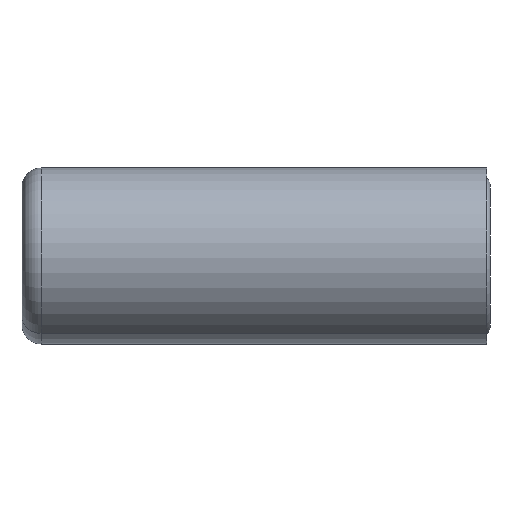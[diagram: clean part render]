
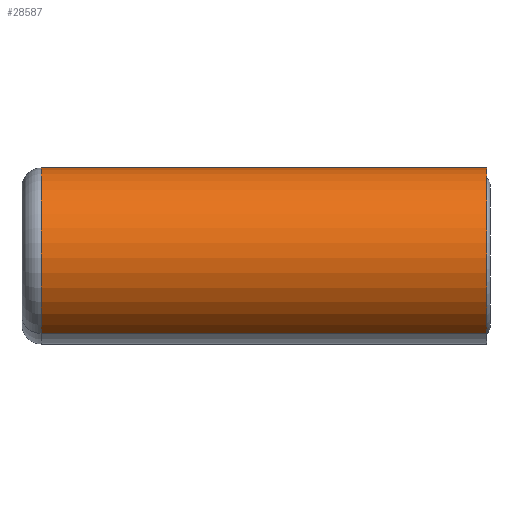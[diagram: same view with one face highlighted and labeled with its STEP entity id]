
A CAD part, left-side view. The second image highlights one B-rep face of the part: STEP entity #28587.
In plain terms, the highlighted cylindrical face has radius 9.25 mm (diameter 18.5 mm), a partial arc.
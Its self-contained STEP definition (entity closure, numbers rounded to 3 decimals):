
#56 = CARTESIAN_POINT ( 'NONE',  ( 0., 48.795, 0. ) ) ;
#889 = ORIENTED_EDGE ( 'NONE', *, *, #20856, .F. ) ;
#2518 = DIRECTION ( 'NONE',  ( 0., -1., 0. ) ) ;
#3113 = VECTOR ( 'NONE', #2518, 1000. ) ;
#3909 = DIRECTION ( 'NONE',  ( 0., 0., 1. ) ) ;
#3922 = VECTOR ( 'NONE', #32006, 1000. ) ;
#4190 = EDGE_CURVE ( 'NONE', #34112, #18105, #32348, .T. ) ;
#5203 = CARTESIAN_POINT ( 'NONE',  ( 0., 48.795, 9.25 ) ) ;
#5781 = DIRECTION ( 'NONE',  ( 0., -1., 0. ) ) ;
#6177 = CARTESIAN_POINT ( 'NONE',  ( 0., 0., 9.25 ) ) ;
#6730 = CARTESIAN_POINT ( 'NONE',  ( 0., 0., -9.25 ) ) ;
#7040 = CARTESIAN_POINT ( 'NONE',  ( 0., 46.795, 9.25 ) ) ;
#7108 = CARTESIAN_POINT ( 'NONE',  ( 0., 46.795, 0. ) ) ;
#7938 = DIRECTION ( 'NONE',  ( 0., 1., 0. ) ) ;
#9377 = VERTEX_POINT ( 'NONE', #33082 ) ;
#10211 = CARTESIAN_POINT ( 'NONE',  ( 0., 48.795, -9.25 ) ) ;
#10457 = CIRCLE ( 'NONE', #15570, 9.25 ) ;
#10617 = FACE_OUTER_BOUND ( 'NONE', #24373, .T. ) ;
#10814 = CARTESIAN_POINT ( 'NONE',  ( 0., 0., 0. ) ) ;
#11756 = ORIENTED_EDGE ( 'NONE', *, *, #29224, .T. ) ;
#13253 = LINE ( 'NONE', #10211, #3922 ) ;
#13599 = ORIENTED_EDGE ( 'NONE', *, *, #32712, .T. ) ;
#15570 = AXIS2_PLACEMENT_3D ( 'NONE', #10814, #7938, #21897 ) ;
#15955 = DIRECTION ( 'NONE',  ( 0., 0., -1. ) ) ;
#18105 = VERTEX_POINT ( 'NONE', #6177 ) ;
#18650 = ORIENTED_EDGE ( 'NONE', *, *, #4190, .T. ) ;
#18660 = CYLINDRICAL_SURFACE ( 'NONE', #27331, 9.25 ) ;
#20358 = DIRECTION ( 'NONE',  ( 0., -1., 0. ) ) ;
#20856 = EDGE_CURVE ( 'NONE', #9377, #25389, #13253, .T. ) ;
#21897 = DIRECTION ( 'NONE',  ( 0., 0., 1. ) ) ;
#22273 = AXIS2_PLACEMENT_3D ( 'NONE', #7108, #20358, #3909 ) ;
#24373 = EDGE_LOOP ( 'NONE', ( #11756, #18650, #13599, #889 ) ) ;
#25098 = CIRCLE ( 'NONE', #22273, 9.25 ) ;
#25389 = VERTEX_POINT ( 'NONE', #6730 ) ;
#27331 = AXIS2_PLACEMENT_3D ( 'NONE', #56, #5781, #15955 ) ;
#28587 = ADVANCED_FACE ( 'NONE', ( #10617 ), #18660, .T. ) ;
#29224 = EDGE_CURVE ( 'NONE', #9377, #34112, #25098, .T. ) ;
#32006 = DIRECTION ( 'NONE',  ( 0., -1., 0. ) ) ;
#32348 = LINE ( 'NONE', #5203, #3113 ) ;
#32712 = EDGE_CURVE ( 'NONE', #18105, #25389, #10457, .T. ) ;
#33082 = CARTESIAN_POINT ( 'NONE',  ( 0., 46.795, -9.25 ) ) ;
#34112 = VERTEX_POINT ( 'NONE', #7040 ) ;
